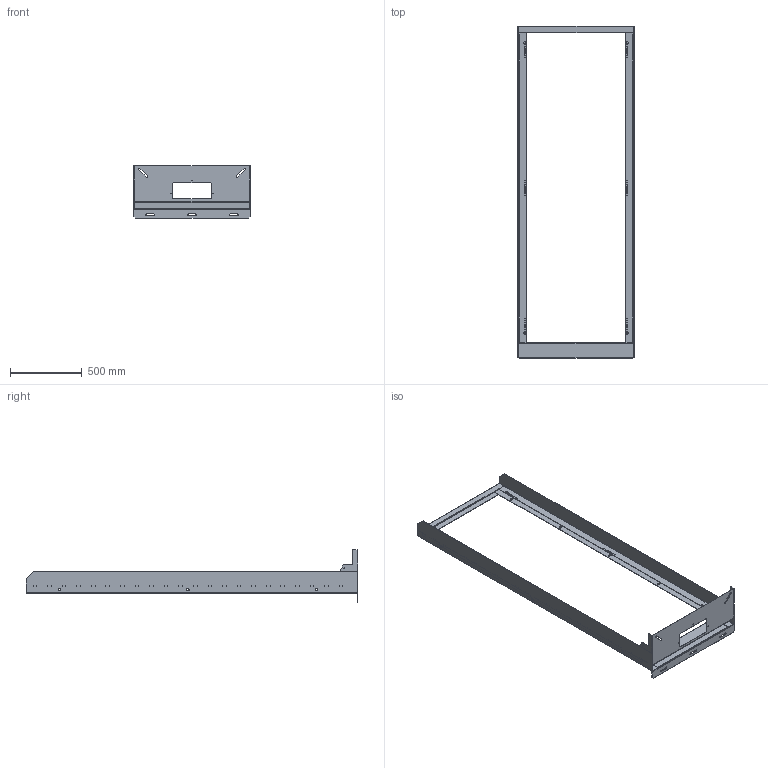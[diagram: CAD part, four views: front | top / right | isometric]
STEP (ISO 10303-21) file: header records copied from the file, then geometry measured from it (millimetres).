
FILE_DESCRIPTION (( 'STEP AP203' ), '1' );
FILE_NAME ('62469.STEP', '2026-01-12T15:14:27', ( '' ), ( '' ), 'SwSTEP 2.0', 'SolidWorks 2024', '' );
FILE_SCHEMA (( 'CONFIG_CONTROL_DESIGN' ));
Length unit declared in the file: inch
Products named in the file (8): 62469; 89251150; 89251058; 89251056; 89251057; 89251162_WITH HELLCAT; 89251151; 89251153
Assembly tree (8 placements, depth 3):
  62469
    89251162_WITH HELLCAT
      89251056
      89251150
      89251153  x2
      89251057
      89251058
      89251151
Bounding box: 809.6 x 2312.67 x 368.3 mm (x, y, z)
Volume: 5799338.3 mm3; surface area: 3666692.4 mm2
Topology: 7 solids, 7 shells, 918 faces, 2350 edges, 1514 vertices
Faces by surface type: plane 692, cylinder 226
Entity records: 25721 total; most frequent: CARTESIAN_POINT 4298, ORIENTED_EDGE 4206, DIRECTION 4163, EDGE_CURVE 2103, LINE 1717, VECTOR 1717, VERTEX_POINT 1358, AXIS2_PLACEMENT_3D 1223
